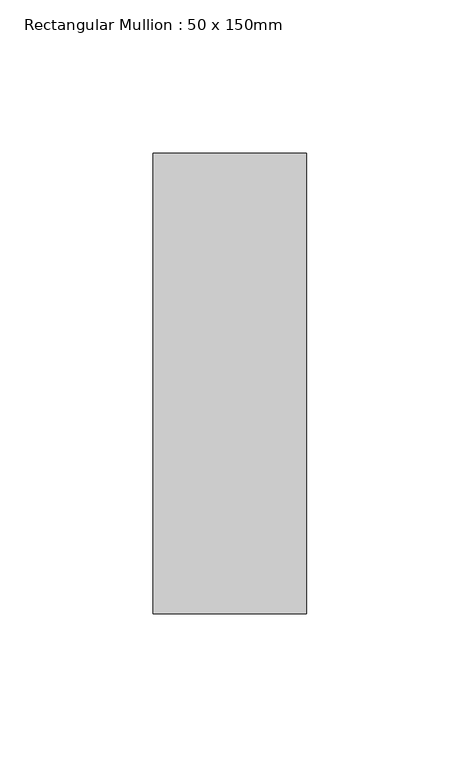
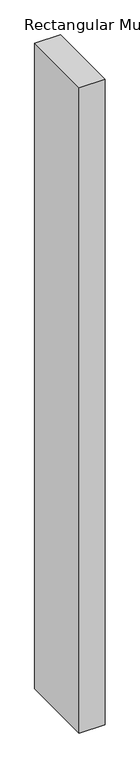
"""IFC4 building model written with IfcOpenShell, lengths in millimetres: member geometry, Rectangular Mullion : 50 x 150mm."""

from ifc_helpers import new_model, si_unit, frame, origin, place, context, project, spatial, polyline, outline, extrude, source, transform, mapped, element, save


def rectangular_mullion_50_x_150mm_f1dd1309(model_context):
    return source(origin(), model_context, "Body", "SweptSolid", [
        extrude(outline(polyline([(25.0, 75.0), (25.0, -75.0), (-25.0, -75.0), (-25.0, 75.0), (25.0, 75.0)])), frame((0.0, 0.0, -1325.8128719), z_axis=(0.0, 0.0, 1.0), x_axis=(1.0, 0.0, 0.0)), (0.0, 0.0, 1.0), 1325.8128719),
    ])


if __name__ == "__main__":
    model = new_model("IFC4")
    model_context = context("Model", 3, world=origin())
    ifc_project = project(units=[si_unit("LENGTHUNIT", "METRE", prefix="MILLI")], contexts=[model_context])
    site = spatial("IfcSite", under=ifc_project)
    building = spatial("IfcBuilding", under=site)
    placement = place(None, origin())
    rectangular_mullion_50_x_150mm_shape = rectangular_mullion_50_x_150mm_f1dd1309(model_context)
    element("IfcMember", 1, ObjectType="Rectangular Mullion : 50 x 150mm", at=placement, inside=building, context=model_context, shape_type="MappedRepresentation", body=[
        mapped(rectangular_mullion_50_x_150mm_shape, transform((0.0, 0.0, 0.0), x_axis=(1.0, 0.0, 0.0), y_axis=(0.0, 1.0, 0.0), z_axis=(0.0, 0.0, 1.0))),
    ])
    save(model, "model.ifc")
